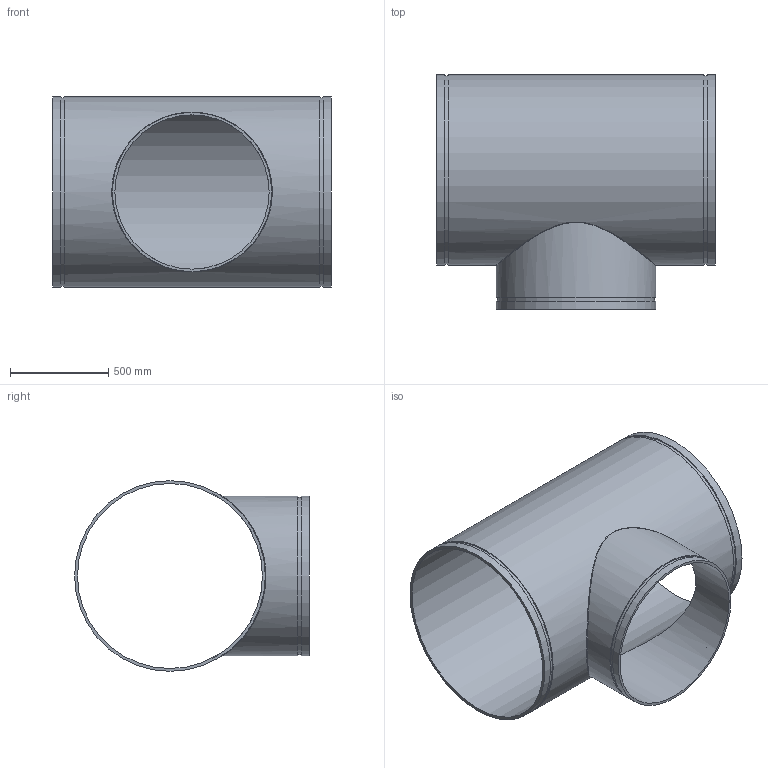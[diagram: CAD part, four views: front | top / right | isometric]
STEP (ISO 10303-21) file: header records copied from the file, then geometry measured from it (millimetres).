
FILE_DESCRIPTION(/* description */ ('VIC REDUCING TEE No 25-C','CAx-IF Rec.Pracs.---Representation and Presentation of Product Manufacturing Information (PMI)---4.0---2014-10-13'),/* implementation_level */ '2;1');
FILE_NAME(/* name */ 'C:\Users\Vjadhav\AppData\Roaming\Autodesk\ApplicationPlugins\Back Up\Victaulic_AWWA_Tee Reducing_No 25-C (DRG)\Victaulic_AWWA_Tee Reducing_No 25-C (DRG)_36.0x30.0 (900x750).stp',/* time_stamp */ '2020-08-18T18:19:45+06:00',/* author */ ('CORINNE GRAY'),/* organization */ ('Victaulic'),/* preprocessor_version */ 'ST-DEVELOPER v17.2',/* originating_system */ 'Autodesk Inventor 2019',/* authorisation */ '');
FILE_SCHEMA (('AP242_MANAGED_MODEL_BASED_3D_ENGINEERING_MIM_LF { 1 0 10303 442 1 1 4 }'));
Length unit declared in the file: inch
Products named in the file (1): 25C-36.0x30.0
Bounding box: 1422.4 x 1197.61 x 972.82 mm (x, y, z)
Volume: 64596512.4 mm3; surface area: 9315895.4 mm2
Topology: 1 solids, 1 shells, 20 faces, 44 edges, 33 vertices
Faces by surface type: cylinder 10, plane 9, bspline 1
Full cylindrical faces by diameter (mm): 786.892 x1, 801.37 x1, 812.8 x2, 943.356 x1, 961.39 x2, 972.82 x3
Entity records: 1234 total; most frequent: CARTESIAN_POINT 610, DIRECTION 135, ORIENTED_EDGE 90, AXIS2_PLACEMENT_3D 62, EDGE_CURVE 45, VERTEX_POINT 34, EDGE_LOOP 31, CIRCLE 29
